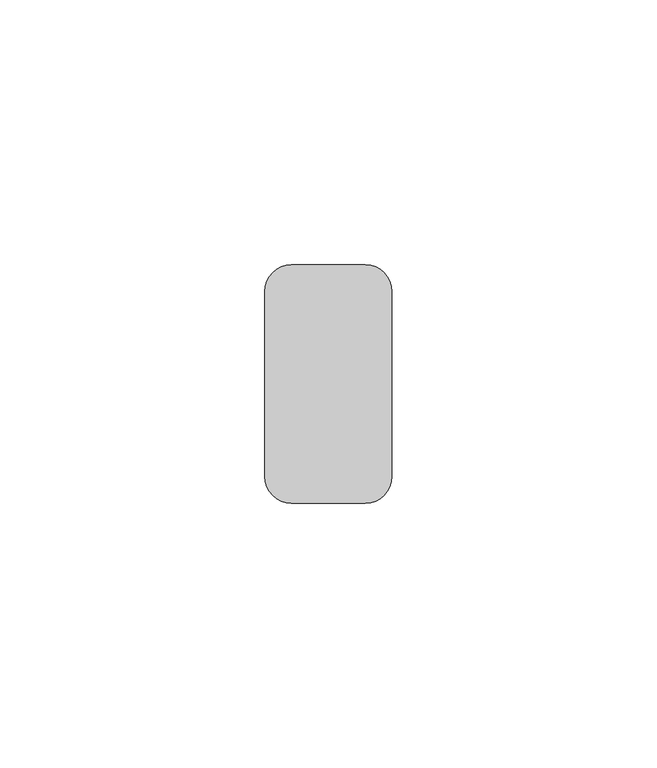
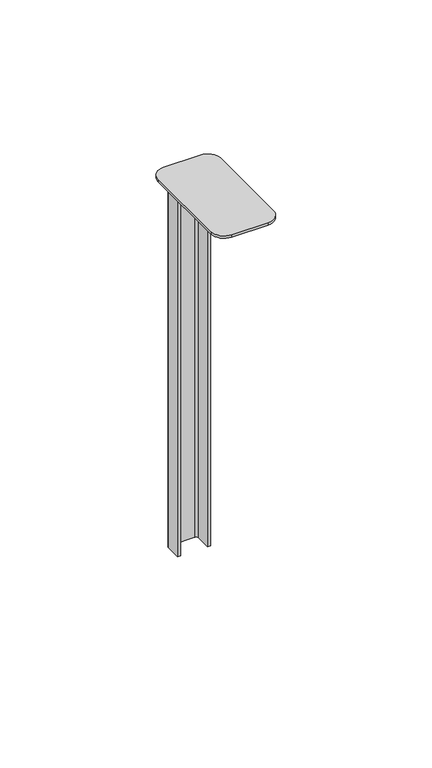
"""IFC4 building model written with IfcOpenShell, lengths in millimetres: proxy geometry, durlum_U1300 : durlum_U1300."""

from ifc_helpers import new_model, si_unit, point, frame, frame_2d, origin, place, context, project, spatial, polyline, circle_curve, trimmed, segment, composite_curve, outline, extrude, source, transform, mapped, element, save


def generic_models_d4a175eb(model_context):
    return source(origin(), model_context, "Body", "SweptSolid", [
        extrude(outline(composite_curve([segment(trimmed(circle_curve(frame_2d((7.0, -5.0)), 5.0), [point((7.0, 0.0))], [point((12.0, -5.0))], False, "CARTESIAN"), True, "CONTINUOUS"), segment(polyline([(12.0, -5.0), (12.0, -40.0)]), True, "CONTINUOUS"), segment(trimmed(circle_curve(frame_2d((7.0, -40.0)), 5.0), [point((12.0, -40.0))], [point((7.0, -45.0))], False, "CARTESIAN"), True, "CONTINUOUS"), segment(polyline([(7.0, -45.0), (-7.0, -45.0)]), True, "CONTINUOUS"), segment(trimmed(circle_curve(frame_2d((-7.0, -40.0)), 5.0), [point((-7.0, -45.0))], [point((-12.0, -40.0))], False, "CARTESIAN"), True, "CONTINUOUS"), segment(polyline([(-12.0, -40.0), (-12.0, -5.0)]), True, "CONTINUOUS"), segment(trimmed(circle_curve(frame_2d((-7.0, -5.0)), 5.0), [point((-12.0, -5.0))], [point((-7.0, 0.0))], False, "CARTESIAN"), True, "CONTINUOUS"), segment(polyline([(-7.0, 0.0), (7.0, 0.0)]), True, "CONTINUOUS")], self_intersect=False)), frame((0.0, 0.0, 868.5875318), z_axis=(0.0, 0.0, 1.0), x_axis=(1.0, 0.0, 0.0)), (0.0, 0.0, 1.0), 1.0),
        extrude(outline(composite_curve([segment(trimmed(circle_curve(frame_2d((-4.25, -2.0)), 2.0), [point((-6.25, -2.0))], [point((-4.25, 0.0))], False, "CARTESIAN"), True, "CONTINUOUS"), segment(polyline([(-4.25, 0.0), (4.25, 0.0)]), True, "CONTINUOUS"), segment(trimmed(circle_curve(frame_2d((4.25, -2.0)), 2.0), [point((4.25, 0.0))], [point((6.25, -2.0))], False, "CARTESIAN"), True, "CONTINUOUS"), segment(polyline([(6.25, -2.0), (6.25, -8.0), (5.25, -8.0), (5.25, -2.0)]), True, "CONTINUOUS"), segment(trimmed(circle_curve(frame_2d((4.25, -2.0)), 1.0), [point((5.25, -2.0))], [point((4.25, -1.0))], True, "CARTESIAN"), True, "CONTINUOUS"), segment(polyline([(4.25, -1.0), (-4.25, -1.0)]), True, "CONTINUOUS"), segment(trimmed(circle_curve(frame_2d((-4.25, -2.0)), 1.0), [point((-4.25, -1.0))], [point((-5.25, -2.0))], True, "CARTESIAN"), True, "CONTINUOUS"), segment(polyline([(-5.25, -2.0), (-5.25, -8.0), (-6.25, -8.0), (-6.25, -2.0)]), True, "CONTINUOUS")], self_intersect=False)), frame((0.0, 0.0, 716.5875318), z_axis=(0.0, 0.0, 1.0), x_axis=(1.0, 0.0, 0.0)), (0.0, 0.0, 1.0), 152.0),
    ])


if __name__ == "__main__":
    model = new_model("IFC4")
    model_context = context("Model", 3, world=origin())
    ifc_project = project(units=[si_unit("LENGTHUNIT", "METRE", prefix="MILLI")], contexts=[model_context])
    site = spatial("IfcSite", under=ifc_project)
    building = spatial("IfcBuilding", under=site)
    placement = place(None, origin())
    generic_models_shape = generic_models_d4a175eb(model_context)
    element("IfcBuildingElementProxy", 1, Name="durlum_U1300 : durlum_U1300", ObjectType="durlum_U1300 : durlum_U1300", at=placement, inside=building, context=model_context, shape_type="MappedRepresentation", body=[
        mapped(generic_models_shape, transform((0.0, 0.0, 0.0), x_axis=(1.0, 0.0, 0.0), y_axis=(0.0, 1.0, 0.0), z_axis=(0.0, 0.0, 1.0))),
    ])
    save(model, "model.ifc")
